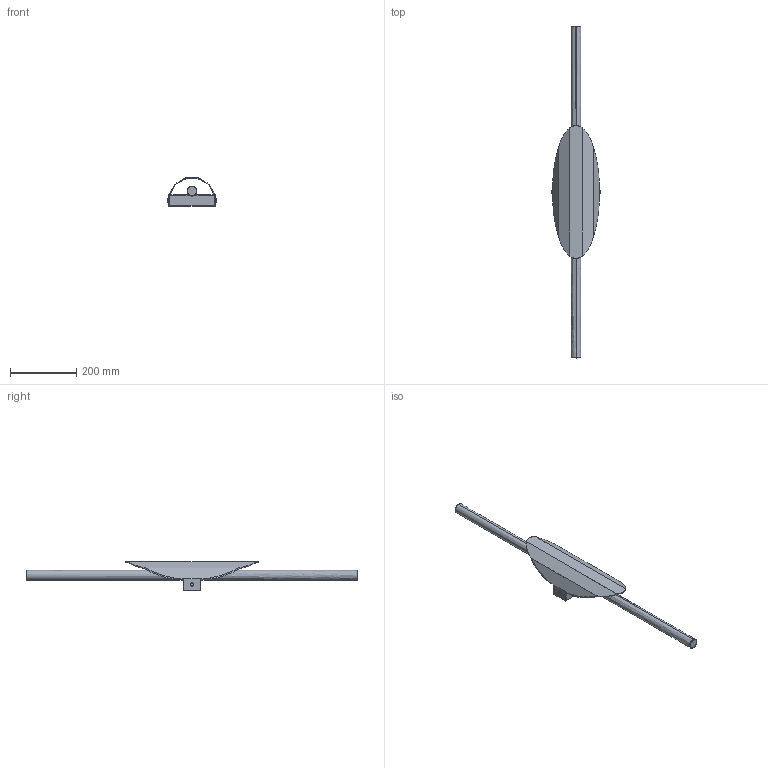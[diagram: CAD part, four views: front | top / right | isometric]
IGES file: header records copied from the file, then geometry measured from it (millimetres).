
Start section: SolidWorks IGES file using analytic representation for surfaces
Global section: file name: C:\Users\Agus\Desktop\NOVEDADES_2023_1\XAGO_A1262\3D\XAGO_A1262.IGS; native system: SolidWorks 2018; preprocessor: SolidWorks 2018; author: Agus; date: 230215.093357; units: millimetre
Bounding box: 146 x 1000 x 85.24 mm (x, y, z)
Surface area: 244439 mm2 (no closed solid volume)
Topology: 0 solids, 0 shells, 97 faces, 1396 edges, 1388 vertices
Faces by surface type: bspline 54, revolution 43
